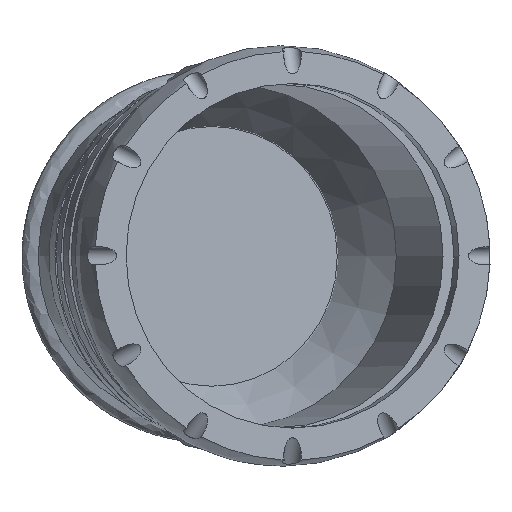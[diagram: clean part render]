
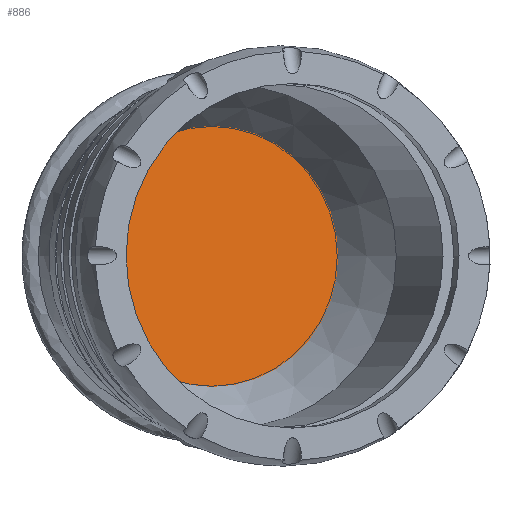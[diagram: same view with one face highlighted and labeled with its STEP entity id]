
A CAD part, top view. The second image highlights one B-rep face of the part: STEP entity #886.
In plain terms, the highlighted planar face has unit normal (0.259, 0, 0.966).
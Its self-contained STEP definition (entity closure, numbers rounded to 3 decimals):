
#28=ELLIPSE('',#965,37.5,37.);
#141=FACE_OUTER_BOUND('',#211,.T.);
#211=EDGE_LOOP('',(#753));
#409=VERTEX_POINT('',#4005);
#526=EDGE_CURVE('',#409,#409,#28,.T.);
#753=ORIENTED_EDGE('',*,*,#526,.T.);
#783=PLANE('',#968);
#886=ADVANCED_FACE('',(#141),#783,.T.);
#965=AXIS2_PLACEMENT_3D('',#4007,#1117,#1118);
#968=AXIS2_PLACEMENT_3D('',#4011,#1123,#1124);
#1117=DIRECTION('center_axis',(0.259,0.,
0.966));
#1118=DIRECTION('ref_axis',(0.966,0.,-0.259));
#1123=DIRECTION('center_axis',(0.259,0.,
0.966));
#1124=DIRECTION('ref_axis',(0.966,0.,-0.259));
#4005=CARTESIAN_POINT('',(-35.152,0.,76.194));
#4007=CARTESIAN_POINT('Origin',(1.07,0.,66.488));
#4011=CARTESIAN_POINT('Origin',(1.07,0.,66.488));
